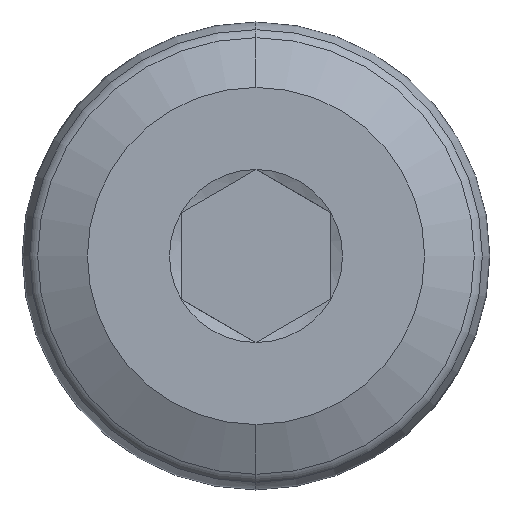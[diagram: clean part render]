
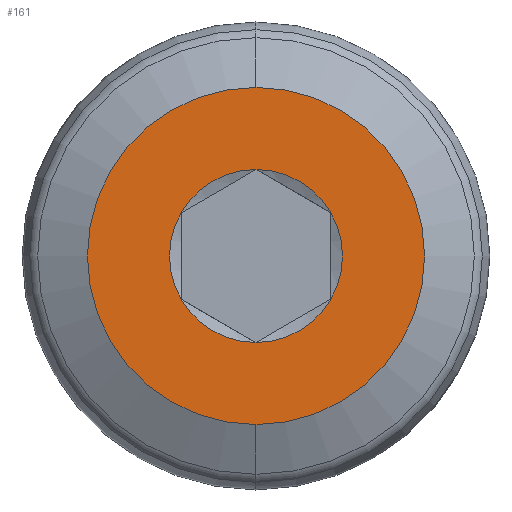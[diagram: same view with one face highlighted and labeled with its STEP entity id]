
A CAD part, left-side view. The second image highlights one B-rep face of the part: STEP entity #161.
In plain terms, the highlighted planar face has unit normal (-1, 0, 0).
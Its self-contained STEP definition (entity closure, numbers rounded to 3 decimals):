
#5 = DIRECTION ( 'NONE',  ( 1., 0., 0. ) ) ;
#9 = AXIS2_PLACEMENT_3D ( 'NONE', #701, #588, #765 ) ;
#11 = DIRECTION ( 'NONE',  ( 0., 0., -1. ) ) ;
#14 = VERTEX_POINT ( 'NONE', #376 ) ;
#23 = AXIS2_PLACEMENT_3D ( 'NONE', #143, #665, #350 ) ;
#28 = VERTEX_POINT ( 'NONE', #235 ) ;
#33 = EDGE_CURVE ( 'NONE', #521, #14, #266, .T. ) ;
#143 = CARTESIAN_POINT ( 'NONE',  ( 0., 0., 0. ) ) ;
#161 = ADVANCED_FACE ( 'NONE', ( #189, #767 ), #453, .T. ) ;
#165 = EDGE_LOOP ( 'NONE', ( #740, #436, #786, #489, #503, #583 ) ) ;
#176 = DIRECTION ( 'NONE',  ( 0., 0., -1. ) ) ;
#189 = FACE_BOUND ( 'NONE', #165, .T. ) ;
#193 = AXIS2_PLACEMENT_3D ( 'NONE', #265, #836, #510 ) ;
#195 = CIRCLE ( 'NONE', #674, 2.309 ) ;
#198 = EDGE_CURVE ( 'NONE', #666, #455, #467, .T. ) ;
#218 = EDGE_CURVE ( 'NONE', #455, #521, #659, .T. ) ;
#223 = DIRECTION ( 'NONE',  ( 1., 0., 0. ) ) ;
#232 = ORIENTED_EDGE ( 'NONE', *, *, #652, .F. ) ;
#235 = CARTESIAN_POINT ( 'NONE',  ( 0., 2., -1.155 ) ) ;
#250 = CARTESIAN_POINT ( 'NONE',  ( 0., -2., -1.155 ) ) ;
#252 = AXIS2_PLACEMENT_3D ( 'NONE', #711, #5, #383 ) ;
#255 = DIRECTION ( 'NONE',  ( 1., 0., 0. ) ) ;
#257 = VERTEX_POINT ( 'NONE', #795 ) ;
#265 = CARTESIAN_POINT ( 'NONE',  ( 0., 0., 0. ) ) ;
#266 = CIRCLE ( 'NONE', #688, 2.309 ) ;
#292 = CARTESIAN_POINT ( 'NONE',  ( 0., 0., 2.309 ) ) ;
#350 = DIRECTION ( 'NONE',  ( 0., 0., -1. ) ) ;
#357 = EDGE_CURVE ( 'NONE', #14, #28, #385, .T. ) ;
#376 = CARTESIAN_POINT ( 'NONE',  ( 0., 0., -2.309 ) ) ;
#383 = DIRECTION ( 'NONE',  ( 0., 0., -1. ) ) ;
#385 = CIRCLE ( 'NONE', #23, 2.309 ) ;
#417 = VERTEX_POINT ( 'NONE', #627 ) ;
#429 = AXIS2_PLACEMENT_3D ( 'NONE', #610, #223, #472 ) ;
#436 = ORIENTED_EDGE ( 'NONE', *, *, #198, .T. ) ;
#453 = PLANE ( 'NONE',  #9 ) ;
#455 = VERTEX_POINT ( 'NONE', #690 ) ;
#456 = CARTESIAN_POINT ( 'NONE',  ( 0., 0., 0. ) ) ;
#467 = CIRCLE ( 'NONE', #252, 2.309 ) ;
#472 = DIRECTION ( 'NONE',  ( 0., 0., -1. ) ) ;
#483 = AXIS2_PLACEMENT_3D ( 'NONE', #456, #509, #11 ) ;
#489 = ORIENTED_EDGE ( 'NONE', *, *, #33, .T. ) ;
#503 = ORIENTED_EDGE ( 'NONE', *, *, #357, .T. ) ;
#509 = DIRECTION ( 'NONE',  ( 1., 0., 0. ) ) ;
#510 = DIRECTION ( 'NONE',  ( 0., 0., -1. ) ) ;
#515 = ORIENTED_EDGE ( 'NONE', *, *, #734, .F. ) ;
#521 = VERTEX_POINT ( 'NONE', #250 ) ;
#525 = EDGE_CURVE ( 'NONE', #28, #417, #643, .T. ) ;
#560 = CIRCLE ( 'NONE', #697, 4.5 ) ;
#583 = ORIENTED_EDGE ( 'NONE', *, *, #525, .T. ) ;
#588 = DIRECTION ( 'NONE',  ( -1., 0., 0. ) ) ;
#607 = CARTESIAN_POINT ( 'NONE',  ( 0., 0., 0. ) ) ;
#610 = CARTESIAN_POINT ( 'NONE',  ( 0., 0., 0. ) ) ;
#615 = VERTEX_POINT ( 'NONE', #829 ) ;
#627 = CARTESIAN_POINT ( 'NONE',  ( 0., 2., 1.155 ) ) ;
#643 = CIRCLE ( 'NONE', #483, 2.309 ) ;
#652 = EDGE_CURVE ( 'NONE', #257, #615, #560, .T. ) ;
#659 = CIRCLE ( 'NONE', #193, 2.309 ) ;
#665 = DIRECTION ( 'NONE',  ( 1., 0., 0. ) ) ;
#666 = VERTEX_POINT ( 'NONE', #292 ) ;
#674 = AXIS2_PLACEMENT_3D ( 'NONE', #607, #733, #727 ) ;
#680 = EDGE_CURVE ( 'NONE', #417, #666, #195, .T. ) ;
#683 = EDGE_LOOP ( 'NONE', ( #232, #515 ) ) ;
#688 = AXIS2_PLACEMENT_3D ( 'NONE', #746, #754, #176 ) ;
#689 = CIRCLE ( 'NONE', #429, 4.5 ) ;
#690 = CARTESIAN_POINT ( 'NONE',  ( 0., -2., 1.155 ) ) ;
#697 = AXIS2_PLACEMENT_3D ( 'NONE', #835, #255, #704 ) ;
#701 = CARTESIAN_POINT ( 'NONE',  ( 0., 4.5, 0. ) ) ;
#704 = DIRECTION ( 'NONE',  ( 0., 0., -1. ) ) ;
#711 = CARTESIAN_POINT ( 'NONE',  ( 0., 0., 0. ) ) ;
#727 = DIRECTION ( 'NONE',  ( 0., 0., -1. ) ) ;
#733 = DIRECTION ( 'NONE',  ( 1., 0., 0. ) ) ;
#734 = EDGE_CURVE ( 'NONE', #615, #257, #689, .T. ) ;
#740 = ORIENTED_EDGE ( 'NONE', *, *, #680, .T. ) ;
#746 = CARTESIAN_POINT ( 'NONE',  ( 0., 0., 0. ) ) ;
#754 = DIRECTION ( 'NONE',  ( 1., 0., 0. ) ) ;
#765 = DIRECTION ( 'NONE',  ( 0., 0., 1. ) ) ;
#767 = FACE_OUTER_BOUND ( 'NONE', #683, .T. ) ;
#786 = ORIENTED_EDGE ( 'NONE', *, *, #218, .T. ) ;
#795 = CARTESIAN_POINT ( 'NONE',  ( 0., 0., -4.5 ) ) ;
#829 = CARTESIAN_POINT ( 'NONE',  ( 0., 0., 4.5 ) ) ;
#835 = CARTESIAN_POINT ( 'NONE',  ( 0., 0., 0. ) ) ;
#836 = DIRECTION ( 'NONE',  ( 1., 0., 0. ) ) ;
